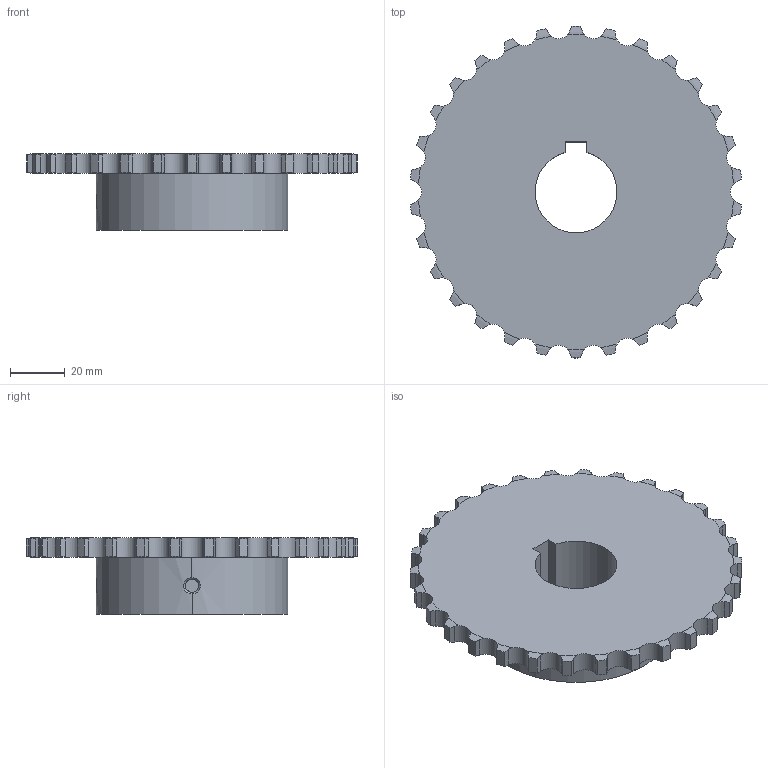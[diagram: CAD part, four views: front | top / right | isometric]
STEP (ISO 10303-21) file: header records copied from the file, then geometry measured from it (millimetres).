
FILE_DESCRIPTION((''),'2;1');
FILE_NAME('510-201-3030_PRT','2021-02-13T',('Brieden'),('Brieden'),'PRO/ENGINEER BY PARAMETRIC TECHNOLOGY CORPORATION, 2010160','PRO/ENGINEER BY PARAMETRIC TECHNOLOGY CORPORATION, 2010160','');
FILE_SCHEMA(('AUTOMOTIVE_DESIGN { 1 0 10303 214 1 1 1 1 }'));
Length unit declared in the file: millimetre
Products named in the file (1): 510-201-3030_PRT
Bounding box: 121.13 x 121.5 x 28 mm (x, y, z)
Volume: 136092.5 mm3; surface area: 31283.2 mm2
Topology: 1 solids, 1 shells, 201 faces, 585 edges, 388 vertices
Faces by surface type: cylinder 127, torus 60, plane 8, bspline 6
Entity records: 9828 total; most frequent: CARTESIAN_POINT 3017, ORIENTED_EDGE 1170, DIRECTION 913, PRESENTATION_STYLE_ASSIGNMENT 586, STYLED_ITEM 586, CURVE_STYLE 585, EDGE_CURVE 585, VERTEX_POINT 388
